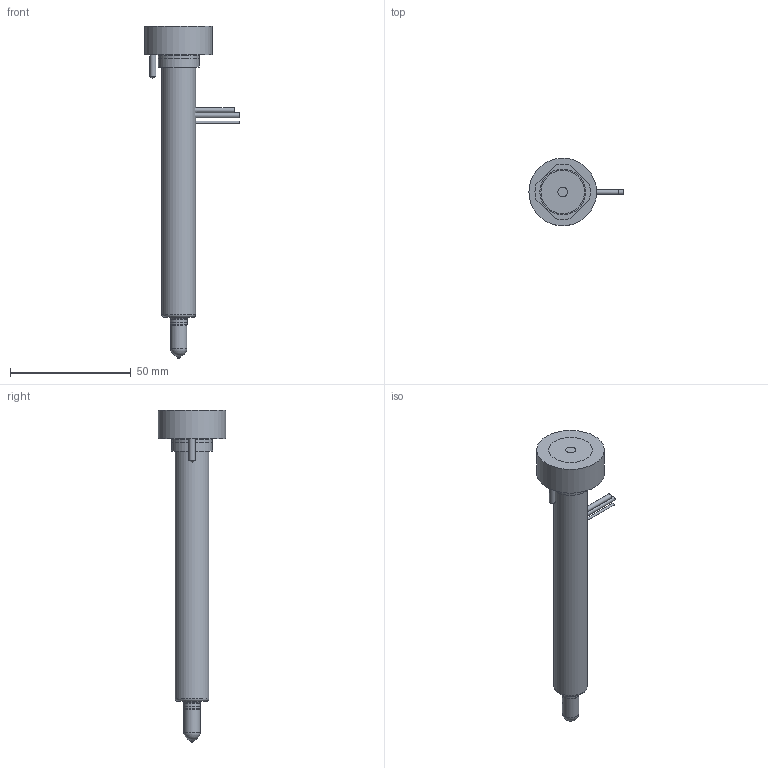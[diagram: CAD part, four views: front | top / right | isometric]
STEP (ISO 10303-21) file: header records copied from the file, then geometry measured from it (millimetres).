
FILE_DESCRIPTION(/* description */ (''),/* implementation_level */ '2;1');
FILE_NAME(/* name */ 'MJTT09115-10_250C_a',/* time_stamp */ '2008-11-14T17:54:58+13:00',/* author */ (''),/* organization */ (''),/* preprocessor_version */ 'ST-DEVELOPER v9',/* originating_system */ 'UGS - NX 4.0',/* authorisation */ '');
FILE_SCHEMA (('CONFIG_CONTROL_DESIGN'));
Length unit declared in the file: millimetre
Products named in the file (1): Matt5FEBawuf
Bounding box: 39 x 28 x 137.51 mm (x, y, z)
Volume: 43902.6 mm3; surface area: 14097.4 mm2
Topology: 2 solids, 2 shells, 90 faces, 207 edges, 133 vertices
Faces by surface type: plane 36, cylinder 33, cone 11, torus 9, sphere 1
Full cylindrical faces by diameter (mm): 0.7 x1, 1 x1, 2 x2, 2.5 x2, 3.6 x1, 4 x1, 5.2 x1, 6.61 x1, 6.8 x1, 7.01 x2, 8 x1, 13 x1, 13.002 x1, 14 x1, 17 x2, 28 x1
Entity records: 2560 total; most frequent: CARTESIAN_POINT 637, DIRECTION 402, ORIENTED_EDGE 308, AXIS2_PLACEMENT_3D 176, EDGE_CURVE 154, EDGE_LOOP 142, VERTEX_POINT 121, ADVANCED_FACE 90
